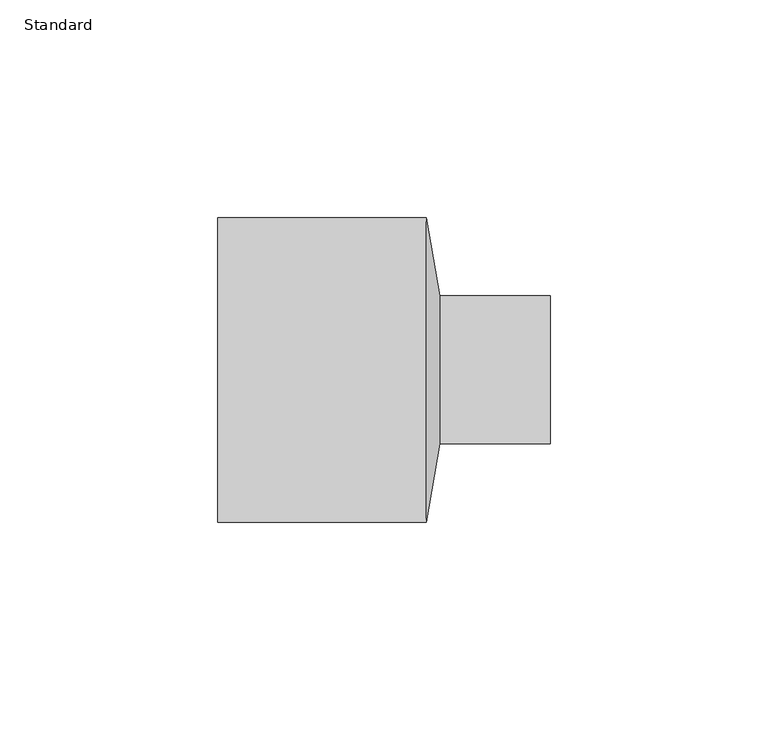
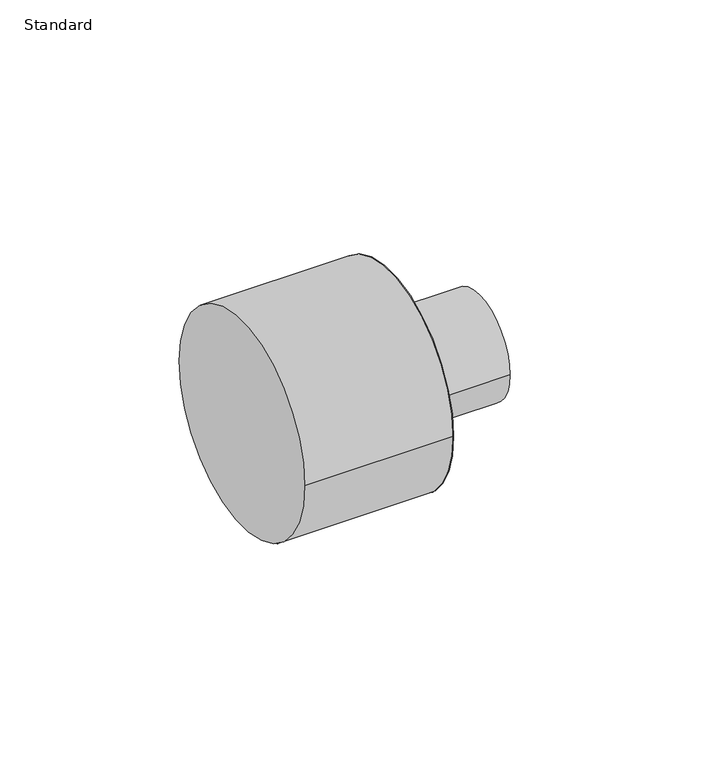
"""IFC4 building model written with IfcOpenShell, lengths in millimetres: pipe fitting geometry, M_Coupling Reducing - CPVC - Sch 40 : Standard."""

import ifcopenshell
import ifcopenshell.guid

model = None  # the IFC model being written
_history = None  # IfcOwnerHistory: only IFC2X3 demands one
_inside = {}  # id of a spatial element -> (the spatial element, [elements in it])
_under = {}  # id of a project, library or spatial element -> (it, [spatial elements below it])
_declared = {}  # id of a project -> (the project, [libraries it declares])
_typed = {}  # id of a type object -> (the type object, [elements of that type])
_made_of = {}  # id of a material, layer set ... -> (it, [elements and type objects made of it])


def new_model(schema):
    """Start an empty IFC model of exactly this schema.

    Asked for "IFC4X3", IfcOpenShell would pick the latest addendum, in which some entities
    have other attributes; the version numbers below select the first issue.
    IFC2X3 requires an IfcOwnerHistory on every rooted entity: one is made here for all.
    """
    global model, _history
    if schema == "IFC4X3":
        model = ifcopenshell.file(schema_version=(4, 3, 0, 0))
    else:
        model = ifcopenshell.file(schema=schema)
    _inside.clear()
    _under.clear()
    _declared.clear()
    _typed.clear()
    _made_of.clear()
    _history = None
    if model.schema == "IFC2X3":
        org = make("IfcOrganization", Name="unknown")
        user = make(
            "IfcPersonAndOrganization",
            ThePerson=make("IfcPerson", FamilyName="unknown"),
            TheOrganization=org,
        )
        app = make(
            "IfcApplication",
            ApplicationDeveloper=org,
            Version="unknown",
            ApplicationFullName="unknown",
            ApplicationIdentifier="unknown",
        )
        _history = make(
            "IfcOwnerHistory",
            OwningUser=user,
            OwningApplication=app,
            ChangeAction="ADDED",
            CreationDate=0,
        )
    return model


def make(cls, **values):
    """One entity of the class cls with the attributes given. An attribute that is None is left unset."""
    return model.create_entity(
        cls, **{name: value for name, value in values.items() if value is not None}
    )


def rooted(cls, **values):
    """An entity with a GlobalId (a new one), such as an element, a storey or a relation."""
    return make(cls, GlobalId=ifcopenshell.guid.new(), OwnerHistory=_history, **values)


def si_unit(unit_type, name, prefix=None):
    """IfcSIUnit, for example si_unit("LENGTHUNIT", "METRE", prefix="MILLI")."""
    return make("IfcSIUnit", UnitType=unit_type, Prefix=prefix, Name=name)


def assignment(units):
    """IfcUnitAssignment: the units of a project."""
    return None if units is None else make("IfcUnitAssignment", Units=units)


def point(xyz):
    """IfcCartesianPoint."""
    return None if xyz is None else make("IfcCartesianPoint", Coordinates=xyz)


def direction(xyz):
    """IfcDirection."""
    return None if xyz is None else make("IfcDirection", DirectionRatios=xyz)


def frame(location, z_axis=None, x_axis=None):
    """IfcAxis2Placement3D, a coordinate frame: its origin and axes. An axis left out is left unset."""
    return make(
        "IfcAxis2Placement3D",
        Location=point(location),
        Axis=direction(z_axis),
        RefDirection=direction(x_axis),
    )


def frame_2d(location, x_axis=None):
    """IfcAxis2Placement2D, a coordinate frame in the plane: its origin and x axis."""
    return make(
        "IfcAxis2Placement2D", Location=point(location), RefDirection=direction(x_axis)
    )


def origin():
    """The frame at (0, 0, 0) with its axes left unset."""
    return frame((0.0, 0.0, 0.0))


def origin_2d():
    """The frame at (0, 0) in the plane with its x axis left unset."""
    return frame_2d((0.0, 0.0))


def place(relative_to, where):
    """IfcLocalPlacement: puts the frame where relative to a parent placement (None: the world)."""
    return make(
        "IfcLocalPlacement", PlacementRelTo=relative_to, RelativePlacement=where
    )


def context(
    kind, dimensions, precision=None, world=None, true_north=None, identifier=None
):
    """IfcGeometricRepresentationContext, for example the 3D "Model" context."""
    return make(
        "IfcGeometricRepresentationContext",
        ContextIdentifier=identifier,
        ContextType=kind,
        CoordinateSpaceDimension=dimensions,
        Precision=precision,
        WorldCoordinateSystem=world,
        TrueNorth=true_north,
    )


def project(units=None, contexts=None):
    """IfcProject with its units and contexts."""
    return rooted(
        "IfcProject",
        Name="project",
        RepresentationContexts=contexts,
        UnitsInContext=assignment(units),
    )


def spatial(cls, under=None, at=None, **own):
    """A site, building, storey or space (cls), placed at a placement, below another one or the project."""
    s = rooted(cls, ObjectPlacement=at, **own)
    if under is not None:
        _under.setdefault(under.id(), (under, []))[1].append(s)
    return s


def polyline(points):
    """IfcPolyline through the points."""
    return make("IfcPolyline", Points=[point(p) for p in points])


def circle_curve(where, radius):
    """IfcCircle in the frame where."""
    return make("IfcCircle", Position=where, Radius=radius)


def trimmed(basis, trim1, trim2, sense, master):
    """IfcTrimmedCurve: the piece of a basis curve between two trims."""
    return make(
        "IfcTrimmedCurve",
        BasisCurve=basis,
        Trim1=trim1,
        Trim2=trim2,
        SenseAgreement=sense,
        MasterRepresentation=master,
    )


def segment(curve, same_sense, transition):
    """IfcCompositeCurveSegment."""
    return make(
        "IfcCompositeCurveSegment",
        Transition=transition,
        SameSense=same_sense,
        ParentCurve=curve,
    )


def composite_curve(segments, self_intersect=None):
    """IfcCompositeCurve: segments joined end to end."""
    return make("IfcCompositeCurve", Segments=segments, SelfIntersect=self_intersect)


def outline(outer, holes=None, kind="AREA"):
    """IfcArbitraryClosedProfileDef: a profile drawn as a closed curve; with holes, ...WithVoids."""
    if holes is None:
        return make("IfcArbitraryClosedProfileDef", ProfileType=kind, OuterCurve=outer)
    return make(
        "IfcArbitraryProfileDefWithVoids",
        ProfileType=kind,
        OuterCurve=outer,
        InnerCurves=holes,
    )


def extrude(swept, where, along, depth):
    """IfcExtrudedAreaSolid: the profile swept, set in the frame where, extruded along a direction by depth."""
    return make(
        "IfcExtrudedAreaSolid",
        SweptArea=swept,
        Position=where,
        ExtrudedDirection=direction(along),
        Depth=depth,
    )


def shape(context_of_items, identifier, shape_type, items):
    """IfcShapeRepresentation: the items that make up one representation, for example the "Body"."""
    return make(
        "IfcShapeRepresentation",
        ContextOfItems=context_of_items,
        RepresentationIdentifier=identifier,
        RepresentationType=shape_type,
        Items=items,
    )


def source(mapping_origin, context_of_items, identifier, shape_type, items):
    """IfcRepresentationMap: a shape defined once, which mapped items show again and again."""
    return make(
        "IfcRepresentationMap",
        MappingOrigin=mapping_origin,
        MappedRepresentation=shape(context_of_items, identifier, shape_type, items),
    )


def transform(
    local_origin,
    x_axis=None,
    y_axis=None,
    z_axis=None,
    scale=None,
    scale2=None,
    scale3=None,
    uniform=True,
):
    """IfcCartesianTransformationOperator3D, or its non-uniform kind. x_axis, y_axis, z_axis: its Axis1, 2, 3."""
    if uniform:
        return make(
            "IfcCartesianTransformationOperator3D",
            Axis1=direction(x_axis),
            Axis2=direction(y_axis),
            LocalOrigin=point(local_origin),
            Scale=scale,
            Axis3=direction(z_axis),
        )
    return make(
        "IfcCartesianTransformationOperator3DnonUniform",
        Axis1=direction(x_axis),
        Axis2=direction(y_axis),
        LocalOrigin=point(local_origin),
        Scale=scale,
        Axis3=direction(z_axis),
        Scale2=scale2,
        Scale3=scale3,
    )


def mapped(mapping_source, mapping_target):
    """IfcMappedItem: shows the shape of a source again, moved by a transform."""
    return make(
        "IfcMappedItem", MappingSource=mapping_source, MappingTarget=mapping_target
    )


def made_of(thing, what):
    """Note that an element or type object is made of a material, layer set ...; save() writes the relation."""
    if what is not None:
        _made_of.setdefault(what.id(), (what, []))[1].append(thing)
    return thing


def element(
    cls,
    number,
    at=None,
    inside=None,
    cuts=None,
    type_object=None,
    material=None,
    context=None,
    identifier="Body",
    shape_type=None,
    held_by="IfcProductDefinitionShape",
    body=None,
    shapes=None,
    **own,
):
    """One element of the class cls, such as IfcWall. Its Tag is "e" and its number.

    at: its placement. inside: the storey or other place that contains it. cuts: it is an
    opening in that element (IfcRelVoidsElement). A single representation is given by context,
    identifier, shape_type and body (its items); several are given by shapes. held_by: the class
    of the entity that holds the representations. save() writes the other relations.
    """
    e = rooted(cls, Tag="e%d" % number, ObjectPlacement=at, **own)
    if body is not None:
        shapes = [shape(context, identifier, shape_type, body)]
    if shapes is not None:
        e.Representation = make(held_by, Representations=shapes)
    if inside is not None:
        _inside.setdefault(inside.id(), (inside, []))[1].append(e)
    if cuts is not None:
        rooted(
            "IfcRelVoidsElement", RelatingBuildingElement=cuts, RelatedOpeningElement=e
        )
    if type_object is not None:
        _typed.setdefault(type_object.id(), (type_object, []))[1].append(e)
    return made_of(e, material)


def aggregate(whole, parts):
    """IfcRelAggregates: a whole, such as a stair, and the parts it consists of."""
    return rooted("IfcRelAggregates", RelatingObject=whole, RelatedObjects=parts)


def save(model, path):
    """Write the relations noted so far, then the file.

    IfcRelAggregates (storeys below a building ...), IfcRelContainedInSpatialStructure (elements
    in a storey), IfcRelDefinesByType, IfcRelAssociatesMaterial and IfcRelDeclares: one each for
    every whole, place, type object, material and project.
    """
    for whole, parts in _under.values():
        aggregate(whole, parts)
    for where, things in _inside.values():
        rooted(
            "IfcRelContainedInSpatialStructure",
            RelatedElements=things,
            RelatingStructure=where,
        )
    for kind, things in _typed.values():
        rooted("IfcRelDefinesByType", RelatedObjects=things, RelatingType=kind)
    for what, things in _made_of.values():
        rooted("IfcRelAssociatesMaterial", RelatedObjects=things, RelatingMaterial=what)
    for by, libraries in _declared.values():
        rooted("IfcRelDeclares", RelatingContext=by, RelatedDefinitions=libraries)
    model.write(path)


def plane_surface(at):
    """IfcPlane: the flat surface through the origin of the frame at, square to its z axis."""
    return make("IfcPlane", Position=at)


def revolved_surface(curve, axis_point, axis_direction):
    """IfcSurfaceOfRevolution: the curve turned about the line through axis_point along axis_direction."""
    return make(
        "IfcSurfaceOfRevolution",
        SweptCurve=make("IfcArbitraryOpenProfileDef", ProfileType="CURVE", Curve=curve),
        AxisPosition=make("IfcAxis1Placement", Location=point(axis_point), Axis=direction(axis_direction)),
    )


def advanced_brep(points, edges, surfaces, faces):
    """IfcAdvancedBrep: a solid bounded by faces that lie on surfaces and meet in shared edges.

    An edge is (start, end): straight between two places in points (the first is 0);
    or (start, end, curve); or (start, end, curve, False) where it runs against its curve.
    A face is (place in surfaces, loops), or (place, loops, False) where it looks against
    its surface's normal. A loop lists edges by number (the first is 1), with a minus sign
    where the edge is run from its end to its start. The first loop is the outer one.
    """
    corners = [point(p) for p in points]
    vertices = [make("IfcVertexPoint", VertexGeometry=c) for c in corners]
    made = []
    for start, end, *more in edges:
        made.append(
            make(
                "IfcEdgeCurve",
                EdgeStart=vertices[start],
                EdgeEnd=vertices[end],
                EdgeGeometry=more[0] if more else make("IfcPolyline", Points=[corners[start], corners[end]]),
                SameSense=more[1] if len(more) > 1 else True,
            )
        )
    hull = []
    for where, loops, *sense in faces:
        bounds = []
        for j, loop in enumerate(loops):
            ring = [make("IfcOrientedEdge", EdgeElement=made[abs(k) - 1], Orientation=k > 0) for k in loop]
            bounds.append(
                make(
                    "IfcFaceOuterBound" if j == 0 else "IfcFaceBound",
                    Bound=make("IfcEdgeLoop", EdgeList=ring),
                    Orientation=True,
                )
            )
        hull.append(make("IfcAdvancedFace", Bounds=bounds, FaceSurface=surfaces[where], SameSense=sense[0] if sense else True))
    return make("IfcAdvancedBrep", Outer=make("IfcClosedShell", CfsFaces=hull))


def standard_9d5ac8af(model_context):
    return source(origin(), model_context, "Body", "SolidModel", [
        advanced_brep(
        [(51.096875, -17.018, 0.0), (51.096875, 17.018, 0.0), (47.921875, -34.9949219, 0.0), (47.921875, 34.9949219, 0.0)],
        [
            (0, 1, circle_curve(frame((51.096875, 0.0, 0.0), z_axis=(1.0, -4.273914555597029e-12, 0.0), x_axis=(-4.273910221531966e-12, -1.0, 0.0)), 17.018)),
            (1, 0, circle_curve(frame((51.096875, 0.0, 0.0), z_axis=(1.0, -4.273914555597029e-12, 0.0), x_axis=(4.273910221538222e-12, 1.0, 0.0)), 17.018)),
            (2, 3, circle_curve(frame((47.921875, 0.0, 0.0), z_axis=(-1.0, 4.273914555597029e-12, 0.0), x_axis=(4.273910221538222e-12, 1.0, 0.0)), 34.9949219)),
            (3, 2, circle_curve(frame((47.921875, 0.0, 0.0), z_axis=(-1.0, 4.273914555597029e-12, 0.0), x_axis=(-4.273910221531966e-12, -1.0, 0.0)), 34.9949219)),
            (3, 1),
            (0, 2),
        ],
        [
            plane_surface(frame((51.096875, 0.0, 0.0), z_axis=(1.0, 0.0, 0.0), x_axis=(0.0, 0.0, -1.0))),
            plane_surface(frame((47.921875, 0.0, 0.0), z_axis=(-1.0, 0.0, 0.0), x_axis=(0.0, 0.0, -1.0))),
            revolved_surface(polyline([(51.096875, -17.01800002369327, 0.0), (47.92187499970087, -34.994921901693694, 0.0)]), (54.1025147, 0.0, 0.0), (-1.0, 4.273914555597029e-12, 0.0)),
            revolved_surface(polyline([(51.09687500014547, 17.01800002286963, 0.0), (47.921875, 34.9949219, 0.0)]), (54.1025147, 0.0, 0.0), (-1.0, 4.273914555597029e-12, 0.0)),
        ],
        [
            (0, [[1, 2]]),
            (1, [[3, 4]]),
            (2, [[-4, 5, -1, 6]]),
            (3, [[-3, -6, -2, -5]]),
        ],
    ),
        extrude(outline(composite_curve([segment(trimmed(circle_curve(origin_2d(), 17.018), [point((-17.018, 0.0))], [point((17.018, 0.0))], False, "CARTESIAN"), True, "CONTINUOUS"), segment(trimmed(circle_curve(origin_2d(), 17.018), [point((17.018, 0.0))], [point((-17.018, 0.0))], False, "CARTESIAN"), True, "CONTINUOUS")], self_intersect=False)), frame((51.096875, 0.0, 0.0), z_axis=(1.0, 0.0, 0.0), x_axis=(0.0, 1.0, 0.0)), (0.0, 0.0, 1.0), 25.4),
        extrude(outline(composite_curve([segment(trimmed(circle_curve(origin_2d(), 34.9949219), [point((-34.9949219, 0.0))], [point((34.9949219, 0.0))], False, "CARTESIAN"), True, "CONTINUOUS"), segment(trimmed(circle_curve(origin_2d(), 34.9949219), [point((34.9949219, 0.0))], [point((-34.9949219, 0.0))], False, "CARTESIAN"), True, "CONTINUOUS")], self_intersect=False)), frame((0.0, 0.0, 0.0), z_axis=(1.0, 0.0, 0.0), x_axis=(0.0, 1.0, 0.0)), (0.0, 0.0, 1.0), 47.921875),
    ])


if __name__ == "__main__":
    model = new_model("IFC4")
    model_context = context("Model", 3, world=origin())
    ifc_project = project(units=[si_unit("LENGTHUNIT", "METRE", prefix="MILLI")], contexts=[model_context])
    site = spatial("IfcSite", under=ifc_project)
    building = spatial("IfcBuilding", under=site)
    placement = place(None, origin())
    standard_shape = standard_9d5ac8af(model_context)
    element("IfcPipeFitting", 1, ObjectType="M_Coupling Reducing - CPVC - Sch 40 : Standard", at=placement, inside=building, context=model_context, shape_type="MappedRepresentation", body=[
        mapped(standard_shape, transform((0.0, 0.0, 0.0), x_axis=(1.0, 0.0, 0.0), y_axis=(0.0, 1.0, 0.0), z_axis=(0.0, 0.0, 1.0))),
    ])
    save(model, "model.ifc")
